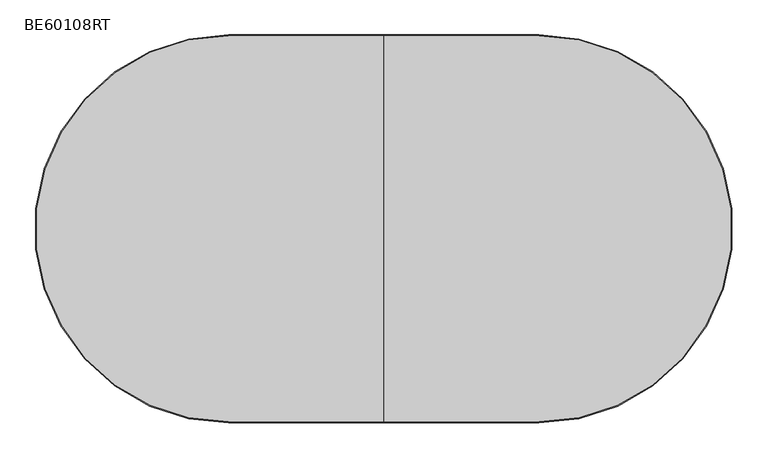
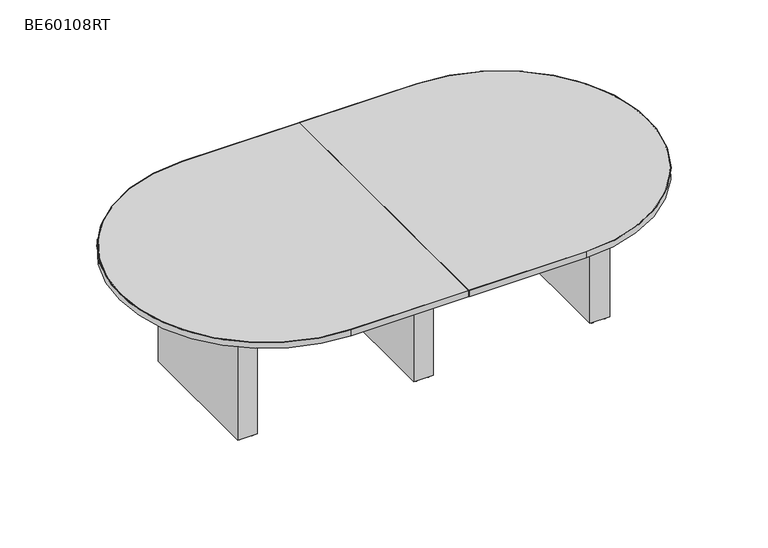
"""IFC4 building model written with IfcOpenShell, lengths in millimetres: furniture geometry, ERG-Beta-Conference_Table-Racetrack : BE60108RT."""

from ifc_helpers import new_model, si_unit, point, frame, frame_2d, origin, origin_with_axes, place, context, project, spatial, polyline, circle_curve, trimmed, segment, composite_curve, outline, extrude, source, transform, mapped, element, save


def be60108rt_faf3e787(model_context):
    return source(origin(), model_context, "Body", "SweptSolid", [
        extrude(outline(composite_curve([segment(trimmed(circle_curve(frame_2d((511.175, 390.276527)), 9.525), [point((501.65, 390.276527))], [point((520.7, 390.276527))], False, "CARTESIAN"), True, "CONTINUOUS"), segment(trimmed(circle_curve(frame_2d((511.175, 390.276527)), 9.525), [point((520.7, 390.276527))], [point((501.65, 390.276527))], False, "CARTESIAN"), True, "CONTINUOUS")], self_intersect=False)), origin_with_axes(), (0.0, 0.0, 1.0), 9.525),
        extrude(outline(composite_curve([segment(trimmed(circle_curve(frame_2d((574.675, 390.276527)), 9.525), [point((565.15, 390.276527))], [point((584.2, 390.276527))], False, "CARTESIAN"), True, "CONTINUOUS"), segment(trimmed(circle_curve(frame_2d((574.675, 390.276527)), 9.525), [point((584.2, 390.276527))], [point((565.15, 390.276527))], False, "CARTESIAN"), True, "CONTINUOUS")], self_intersect=False)), origin_with_axes(), (0.0, 0.0, 1.0), 9.525),
        extrude(outline(composite_curve([segment(trimmed(circle_curve(frame_2d((511.175, -282.823473)), 9.525), [point((501.65, -282.823473))], [point((520.7, -282.823473))], False, "CARTESIAN"), True, "CONTINUOUS"), segment(trimmed(circle_curve(frame_2d((511.175, -282.823473)), 9.525), [point((520.7, -282.823473))], [point((501.65, -282.823473))], False, "CARTESIAN"), True, "CONTINUOUS")], self_intersect=False)), origin_with_axes(), (0.0, 0.0, 1.0), 9.525),
        extrude(outline(composite_curve([segment(trimmed(circle_curve(frame_2d((574.675, -282.823473)), 9.525), [point((565.15, -282.823473))], [point((584.2, -282.823473))], False, "CARTESIAN"), True, "CONTINUOUS"), segment(trimmed(circle_curve(frame_2d((574.675, -282.823473)), 9.525), [point((584.2, -282.823473))], [point((565.15, -282.823473))], False, "CARTESIAN"), True, "CONTINUOUS")], self_intersect=False)), origin_with_axes(), (0.0, 0.0, 1.0), 9.525),
        extrude(outline(polyline([(593.725, 409.326527), (593.725, -301.873473), (492.125, -301.873473), (492.125, 409.326527), (593.725, 409.326527)])), frame((0.0, 0.0, 9.525), z_axis=(0.0, 0.0, 1.0), x_axis=(1.0, 0.0, 0.0)), (0.0, 0.0, 1.0), 695.3249758),
        extrude(outline(composite_curve([segment(trimmed(circle_curve(frame_2d((1425.575, 390.276527)), 9.525), [point((1416.05, 390.276527))], [point((1435.1, 390.276527))], False, "CARTESIAN"), True, "CONTINUOUS"), segment(trimmed(circle_curve(frame_2d((1425.575, 390.276527)), 9.525), [point((1435.1, 390.276527))], [point((1416.05, 390.276527))], False, "CARTESIAN"), True, "CONTINUOUS")], self_intersect=False)), origin_with_axes(), (0.0, 0.0, 1.0), 9.525),
        extrude(outline(composite_curve([segment(trimmed(circle_curve(frame_2d((1489.075, 390.276527)), 9.525), [point((1479.55, 390.276527))], [point((1498.6, 390.276527))], False, "CARTESIAN"), True, "CONTINUOUS"), segment(trimmed(circle_curve(frame_2d((1489.075, 390.276527)), 9.525), [point((1498.6, 390.276527))], [point((1479.55, 390.276527))], False, "CARTESIAN"), True, "CONTINUOUS")], self_intersect=False)), origin_with_axes(), (0.0, 0.0, 1.0), 9.525),
        extrude(outline(composite_curve([segment(trimmed(circle_curve(frame_2d((1425.575, -282.823473)), 9.525), [point((1416.05, -282.823473))], [point((1435.1, -282.823473))], False, "CARTESIAN"), True, "CONTINUOUS"), segment(trimmed(circle_curve(frame_2d((1425.575, -282.823473)), 9.525), [point((1435.1, -282.823473))], [point((1416.05, -282.823473))], False, "CARTESIAN"), True, "CONTINUOUS")], self_intersect=False)), origin_with_axes(), (0.0, 0.0, 1.0), 9.525),
        extrude(outline(composite_curve([segment(trimmed(circle_curve(frame_2d((1489.075, -282.823473)), 9.525), [point((1479.55, -282.823473))], [point((1498.6, -282.823473))], False, "CARTESIAN"), True, "CONTINUOUS"), segment(trimmed(circle_curve(frame_2d((1489.075, -282.823473)), 9.525), [point((1498.6, -282.823473))], [point((1479.55, -282.823473))], False, "CARTESIAN"), True, "CONTINUOUS")], self_intersect=False)), origin_with_axes(), (0.0, 0.0, 1.0), 9.525),
        extrude(outline(polyline([(1508.125, 409.326527), (1508.125, -301.873473), (1406.525, -301.873473), (1406.525, 409.326527), (1508.125, 409.326527)])), frame((0.0, 0.0, 9.525), z_axis=(0.0, 0.0, 1.0), x_axis=(1.0, 0.0, 0.0)), (0.0, 0.0, 1.0), 695.3249758),
        extrude(outline(composite_curve([segment(trimmed(circle_curve(frame_2d((-403.225, 390.276527)), 9.525), [point((-412.75, 390.276527))], [point((-393.7, 390.276527))], False, "CARTESIAN"), True, "CONTINUOUS"), segment(trimmed(circle_curve(frame_2d((-403.225, 390.276527)), 9.525), [point((-393.7, 390.276527))], [point((-412.75, 390.276527))], False, "CARTESIAN"), True, "CONTINUOUS")], self_intersect=False)), origin_with_axes(), (0.0, 0.0, 1.0), 9.525),
        extrude(outline(composite_curve([segment(trimmed(circle_curve(frame_2d((-339.725, 390.276527)), 9.525), [point((-349.25, 390.276527))], [point((-330.2, 390.276527))], False, "CARTESIAN"), True, "CONTINUOUS"), segment(trimmed(circle_curve(frame_2d((-339.725, 390.276527)), 9.525), [point((-330.2, 390.276527))], [point((-349.25, 390.276527))], False, "CARTESIAN"), True, "CONTINUOUS")], self_intersect=False)), origin_with_axes(), (0.0, 0.0, 1.0), 9.525),
        extrude(outline(composite_curve([segment(trimmed(circle_curve(frame_2d((-403.225, -282.823473)), 9.525), [point((-412.75, -282.823473))], [point((-393.7, -282.823473))], False, "CARTESIAN"), True, "CONTINUOUS"), segment(trimmed(circle_curve(frame_2d((-403.225, -282.823473)), 9.525), [point((-393.7, -282.823473))], [point((-412.75, -282.823473))], False, "CARTESIAN"), True, "CONTINUOUS")], self_intersect=False)), origin_with_axes(), (0.0, 0.0, 1.0), 9.525),
        extrude(outline(composite_curve([segment(trimmed(circle_curve(frame_2d((-339.725, -282.823473)), 9.525), [point((-349.25, -282.823473))], [point((-330.2, -282.823473))], False, "CARTESIAN"), True, "CONTINUOUS"), segment(trimmed(circle_curve(frame_2d((-339.725, -282.823473)), 9.525), [point((-330.2, -282.823473))], [point((-349.25, -282.823473))], False, "CARTESIAN"), True, "CONTINUOUS")], self_intersect=False)), origin_with_axes(), (0.0, 0.0, 1.0), 9.525),
        extrude(outline(polyline([(-320.675, 409.326527), (-320.675, -301.873473), (-422.275, -301.873473), (-422.275, 409.326527), (-320.675, 409.326527)])), frame((0.0, 0.0, 9.525), z_axis=(0.0, 0.0, 1.0), x_axis=(1.0, 0.0, 0.0)), (0.0, 0.0, 1.0), 695.3249758),
        extrude(outline(composite_curve([segment(trimmed(circle_curve(frame_2d((1152.525, 53.726527)), 758.825), [point((1152.525, 812.551527))], [point((1152.525, -705.098473))], False, "CARTESIAN"), True, "CONTINUOUS"), segment(polyline([(1152.525, -705.098473), (544.5125, -705.098473), (544.5125, 812.551527), (1152.525, 812.551527)]), True, "CONTINUOUS")], self_intersect=False)), frame((0.0, 0.0, 704.85), z_axis=(0.0, 0.0, 1.0), x_axis=(1.0, 0.0, 0.0)), (0.0, 0.0, 1.0), 31.75),
        extrude(outline(composite_curve([segment(trimmed(circle_curve(frame_2d((-66.675, 53.726527)), 758.825), [point((-66.675, -705.098473))], [point((-66.675, 812.551527))], False, "CARTESIAN"), True, "CONTINUOUS"), segment(polyline([(-66.675, 812.551527), (541.3375, 812.551527), (541.3375, -705.098473), (-66.675, -705.098473)]), True, "CONTINUOUS")], self_intersect=False)), frame((0.0, 0.0, 704.85), z_axis=(0.0, 0.0, 1.0), x_axis=(1.0, 0.0, 0.0)), (0.0, 0.0, 1.0), 31.75),
        extrude(outline(composite_curve([segment(trimmed(circle_curve(frame_2d((1152.525, 53.726527)), 758.825), [point((1152.525, -705.098473))], [point((1152.525, 812.551527))], True, "CARTESIAN"), True, "CONTINUOUS"), segment(polyline([(1152.525, 812.551527), (544.5125, 812.551527), (544.5125, 815.726527), (1152.525, 815.726527)]), True, "CONTINUOUS"), segment(trimmed(circle_curve(frame_2d((1152.525, 53.726527)), 762.0), [point((1152.525, 815.726527))], [point((1152.525, -708.273473))], False, "CARTESIAN"), True, "CONTINUOUS"), segment(polyline([(1152.525, -708.273473), (544.5125, -708.273473), (544.5125, -705.098473), (1152.525, -705.098473)]), True, "CONTINUOUS")], self_intersect=False)), frame((0.0, 0.0, 704.85), z_axis=(0.0, 0.0, 1.0), x_axis=(1.0, 0.0, 0.0)), (0.0, 0.0, 1.0), 31.75),
        extrude(outline(composite_curve([segment(trimmed(circle_curve(frame_2d((-66.675, 53.726527)), 762.0), [point((-66.675, -708.273473))], [point((-66.675, 815.726527))], False, "CARTESIAN"), True, "CONTINUOUS"), segment(polyline([(-66.675, 815.726527), (541.3375, 815.726527), (541.3375, 812.551527), (-66.675, 812.551527)]), True, "CONTINUOUS"), segment(trimmed(circle_curve(frame_2d((-66.675, 53.726527)), 758.825), [point((-66.675, 812.551527))], [point((-66.675, -705.098473))], True, "CARTESIAN"), True, "CONTINUOUS"), segment(polyline([(-66.675, -705.098473), (541.3375, -705.098473), (541.3375, -708.273473), (-66.675, -708.273473)]), True, "CONTINUOUS")], self_intersect=False)), frame((0.0, 0.0, 704.85), z_axis=(0.0, 0.0, 1.0), x_axis=(1.0, 0.0, 0.0)), (0.0, 0.0, 1.0), 31.75),
    ])


if __name__ == "__main__":
    model = new_model("IFC4")
    model_context = context("Model", 3, world=origin())
    ifc_project = project(units=[si_unit("LENGTHUNIT", "METRE", prefix="MILLI")], contexts=[model_context])
    site = spatial("IfcSite", under=ifc_project)
    building = spatial("IfcBuilding", under=site)
    placement = place(None, origin())
    be60108rt_shape = be60108rt_faf3e787(model_context)
    element("IfcFurniture", 1, ObjectType="ERG-Beta-Conference_Table-Racetrack : BE60108RT", at=placement, inside=building, context=model_context, shape_type="MappedRepresentation", body=[
        mapped(be60108rt_shape, transform((0.0, 0.0, 0.0), x_axis=(1.0, 0.0, 0.0), y_axis=(0.0, 1.0, 0.0), z_axis=(0.0, 0.0, 1.0))),
    ])
    save(model, "model.ifc")
